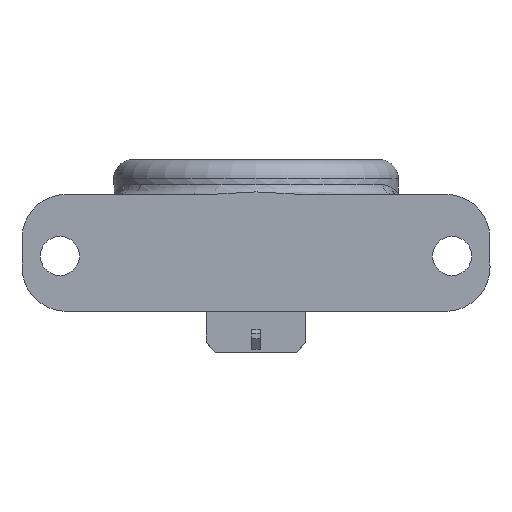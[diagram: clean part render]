
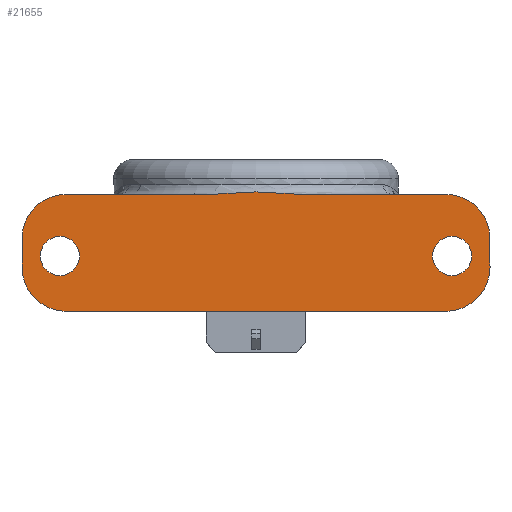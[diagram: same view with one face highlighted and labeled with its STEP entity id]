
A CAD part, front view. The second image highlights one B-rep face of the part: STEP entity #21655.
In plain terms, the highlighted planar face has unit normal (0, -1, 0).
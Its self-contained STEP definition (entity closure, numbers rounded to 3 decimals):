
#716=B_SPLINE_CURVE_WITH_KNOTS('',3,(#44255,#44256,#44257,#44258,#44259,
#44260,#44261,#44262,#44263,#44264,#44265,#44266,#44267,#44268,#44269),
 .UNSPECIFIED.,.F.,.F.,(4,2,2,3,2,2,4),(-0.644,-0.437,
-0.218,0.,0.218,0.437,
0.644),.UNSPECIFIED.);
#1496=CIRCLE('',#23162,7.);
#1497=CIRCLE('',#23164,7.);
#1579=CIRCLE('',#23292,3.1);
#1581=CIRCLE('',#23295,3.1);
#1616=CIRCLE('',#23364,7.);
#1617=CIRCLE('',#23365,7.);
#1706=FACE_BOUND('',#4010,.T.);
#1707=FACE_BOUND('',#4011,.T.);
#2803=FACE_OUTER_BOUND('',#4009,.T.);
#4009=EDGE_LOOP('',(#19552,#19553,#19554,#19555,#19556,#19557,#19558,#19559,
#19560,#19561));
#4010=EDGE_LOOP('',(#19562));
#4011=EDGE_LOOP('',(#19563));
#5965=LINE('',#38263,#8060);
#6115=LINE('',#44178,#8210);
#6116=LINE('',#44271,#8211);
#6134=LINE('',#45311,#8229);
#6135=LINE('',#45313,#8230);
#8060=VECTOR('',#27949,10.);
#8210=VECTOR('',#28549,1000.);
#8211=VECTOR('',#28556,1000.);
#8229=VECTOR('',#28748,10.);
#8230=VECTOR('',#28749,10.);
#9995=VERTEX_POINT('',#38260);
#9996=VERTEX_POINT('',#38262);
#10162=VERTEX_POINT('',#39075);
#10163=VERTEX_POINT('',#39077);
#10164=VERTEX_POINT('',#39081);
#10165=VERTEX_POINT('',#39083);
#10272=VERTEX_POINT('',#44104);
#10273=VERTEX_POINT('',#44181);
#10280=VERTEX_POINT('',#44294);
#10282=VERTEX_POINT('',#44300);
#10312=VERTEX_POINT('',#45309);
#10313=VERTEX_POINT('',#45312);
#12955=EDGE_CURVE('',#9996,#9995,#5965,.T.);
#13180=EDGE_CURVE('',#10162,#10163,#1496,.T.);
#13183=EDGE_CURVE('',#10164,#10165,#1497,.T.);
#13357=EDGE_CURVE('',#10165,#10272,#6115,.T.);
#13360=EDGE_CURVE('',#10272,#10273,#716,.T.);
#13361=EDGE_CURVE('',#10273,#10162,#6116,.T.);
#13374=EDGE_CURVE('',#10280,#10280,#1579,.T.);
#13377=EDGE_CURVE('',#10282,#10282,#1581,.T.);
#13443=EDGE_CURVE('',#10312,#9995,#1616,.T.);
#13444=EDGE_CURVE('',#10164,#10312,#6134,.T.);
#13445=EDGE_CURVE('',#10313,#10163,#6135,.T.);
#13446=EDGE_CURVE('',#9996,#10313,#1617,.T.);
#19552=ORIENTED_EDGE('',*,*,#13443,.F.);
#19553=ORIENTED_EDGE('',*,*,#13444,.F.);
#19554=ORIENTED_EDGE('',*,*,#13183,.T.);
#19555=ORIENTED_EDGE('',*,*,#13357,.T.);
#19556=ORIENTED_EDGE('',*,*,#13360,.T.);
#19557=ORIENTED_EDGE('',*,*,#13361,.T.);
#19558=ORIENTED_EDGE('',*,*,#13180,.T.);
#19559=ORIENTED_EDGE('',*,*,#13445,.F.);
#19560=ORIENTED_EDGE('',*,*,#13446,.F.);
#19561=ORIENTED_EDGE('',*,*,#12955,.T.);
#19562=ORIENTED_EDGE('',*,*,#13374,.F.);
#19563=ORIENTED_EDGE('',*,*,#13377,.F.);
#20535=PLANE('',#23363);
#21655=ADVANCED_FACE('',(#2803,#1706,#1707),#20535,.T.);
#23162=AXIS2_PLACEMENT_3D('',#39079,#28286,#28287);
#23164=AXIS2_PLACEMENT_3D('',#39085,#28292,#28293);
#23292=AXIS2_PLACEMENT_3D('',#44296,#28588,#28589);
#23295=AXIS2_PLACEMENT_3D('',#44302,#28595,#28596);
#23363=AXIS2_PLACEMENT_3D('',#45308,#28744,#28745);
#23364=AXIS2_PLACEMENT_3D('',#45310,#28746,#28747);
#23365=AXIS2_PLACEMENT_3D('',#45314,#28750,#28751);
#27949=DIRECTION('',(1.,0.,0.));
#28286=DIRECTION('center_axis',(0.,-1.,0.));
#28287=DIRECTION('ref_axis',(1.,0.,0.));
#28292=DIRECTION('center_axis',(0.,-1.,0.));
#28293=DIRECTION('ref_axis',(1.,0.,0.));
#28549=DIRECTION('',(-1.,0.,0.));
#28556=DIRECTION('',(-1.,0.,0.));
#28588=DIRECTION('center_axis',(0.,-1.,0.));
#28589=DIRECTION('ref_axis',(1.,0.,0.));
#28595=DIRECTION('center_axis',(0.,-1.,0.));
#28596=DIRECTION('ref_axis',(1.,0.,0.));
#28744=DIRECTION('center_axis',(0.,-1.,0.));
#28745=DIRECTION('ref_axis',(1.,0.,0.));
#28746=DIRECTION('center_axis',(0.,1.,0.));
#28747=DIRECTION('ref_axis',(0.707,0.,-0.707));
#28748=DIRECTION('',(0.,0.,-1.));
#28749=DIRECTION('',(0.,0.,1.));
#28750=DIRECTION('center_axis',(0.,1.,0.));
#28751=DIRECTION('ref_axis',(-0.707,0.,-0.707));
#38260=CARTESIAN_POINT('',(29.985,7.017,-5.012));
#38262=CARTESIAN_POINT('',(-30.015,7.017,-5.012));
#38263=CARTESIAN_POINT('',(20.569,7.017,-5.012));
#39075=CARTESIAN_POINT('',(-30.015,7.017,13.488));
#39077=CARTESIAN_POINT('',(-37.015,7.017,6.488));
#39079=CARTESIAN_POINT('Origin',(-30.015,7.017,6.488));
#39081=CARTESIAN_POINT('',(36.985,7.017,6.488));
#39083=CARTESIAN_POINT('',(29.985,7.017,13.488));
#39085=CARTESIAN_POINT('Origin',(29.985,7.017,6.488));
#44104=CARTESIAN_POINT('',(6.84,7.017,13.488));
#44178=CARTESIAN_POINT('',(32.544,7.017,13.488));
#44181=CARTESIAN_POINT('',(-6.871,7.017,13.488));
#44255=CARTESIAN_POINT('Ctrl Pts',(6.84,7.017,13.488));
#44256=CARTESIAN_POINT('Ctrl Pts',(6.149,7.017,13.488));
#44257=CARTESIAN_POINT('Ctrl Pts',(5.321,7.017,13.535));
#44258=CARTESIAN_POINT('Ctrl Pts',(3.906,7.017,13.642));
#44259=CARTESIAN_POINT('Ctrl Pts',(3.108,7.017,13.717));
#44260=CARTESIAN_POINT('Ctrl Pts',(1.512,7.017,13.834));
#44261=CARTESIAN_POINT('Ctrl Pts',(0.713,7.017,13.87));
#44262=CARTESIAN_POINT('Ctrl Pts',(-0.015,7.017,
13.87));
#44263=CARTESIAN_POINT('Ctrl Pts',(-0.743,7.017,
13.87));
#44264=CARTESIAN_POINT('Ctrl Pts',(-1.543,7.017,13.834));
#44265=CARTESIAN_POINT('Ctrl Pts',(-3.139,7.017,13.717));
#44266=CARTESIAN_POINT('Ctrl Pts',(-3.936,7.017,13.642));
#44267=CARTESIAN_POINT('Ctrl Pts',(-5.352,7.017,13.535));
#44268=CARTESIAN_POINT('Ctrl Pts',(-6.18,7.017,13.488));
#44269=CARTESIAN_POINT('Ctrl Pts',(-6.871,7.017,13.488));
#44271=CARTESIAN_POINT('',(32.544,7.017,13.488));
#44294=CARTESIAN_POINT('',(-34.115,7.017,3.738));
#44296=CARTESIAN_POINT('Origin',(-31.015,7.017,3.738));
#44300=CARTESIAN_POINT('',(27.885,7.017,3.738));
#44302=CARTESIAN_POINT('Origin',(30.985,7.017,3.738));
#45308=CARTESIAN_POINT('Origin',(32.544,7.017,-0.012));
#45309=CARTESIAN_POINT('',(36.985,7.017,1.988));
#45310=CARTESIAN_POINT('Origin',(29.985,7.017,1.988));
#45311=CARTESIAN_POINT('',(36.985,7.017,-6.012));
#45312=CARTESIAN_POINT('',(-37.015,7.017,1.988));
#45313=CARTESIAN_POINT('',(-37.015,7.017,-7.012));
#45314=CARTESIAN_POINT('Origin',(-30.015,7.017,1.988));
